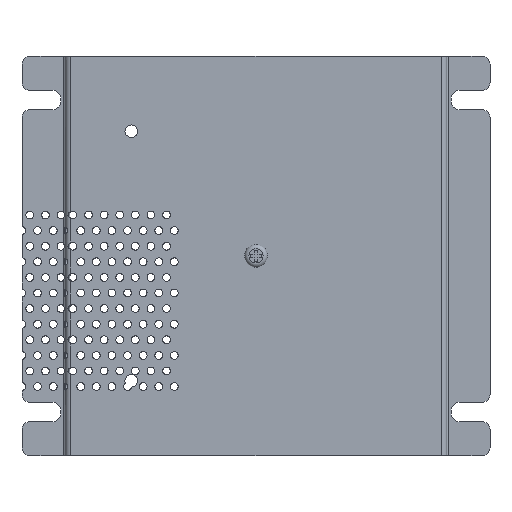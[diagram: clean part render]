
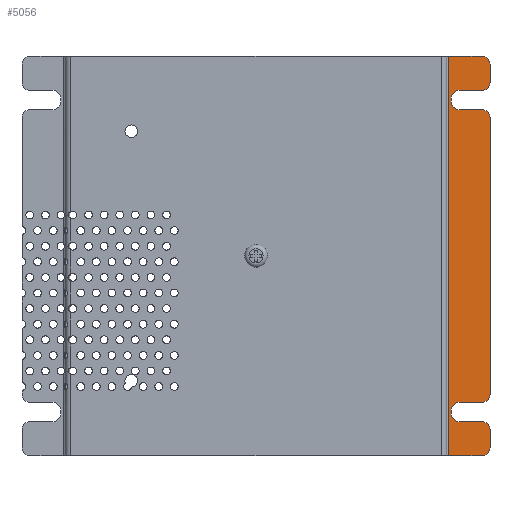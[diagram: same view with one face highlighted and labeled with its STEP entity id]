
A CAD part, top view. The second image highlights one B-rep face of the part: STEP entity #5056.
In plain terms, the highlighted planar face has unit normal (0, 0, 1).
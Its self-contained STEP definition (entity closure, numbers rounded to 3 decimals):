
#152=PLANE('',#5487);
#185=CIRCLE('',#5241,3.175);
#187=CIRCLE('',#5245,3.175);
#189=CIRCLE('',#5249,3.175);
#191=CIRCLE('',#5254,3.175);
#193=CIRCLE('',#5258,3.175);
#195=CIRCLE('',#5262,3.175);
#197=CIRCLE('',#5266,3.175);
#199=CIRCLE('',#5270,3.175);
#325=CIRCLE('',#5475,3.175);
#333=CIRCLE('',#5488,3.175);
#942=ORIENTED_EDGE('',*,*,#1926,.F.);
#943=ORIENTED_EDGE('',*,*,#1927,.T.);
#944=ORIENTED_EDGE('',*,*,#1931,.T.);
#945=ORIENTED_EDGE('',*,*,#1880,.T.);
#946=ORIENTED_EDGE('',*,*,#1886,.T.);
#947=ORIENTED_EDGE('',*,*,#1887,.T.);
#948=ORIENTED_EDGE('',*,*,#1890,.T.);
#949=ORIENTED_EDGE('',*,*,#1893,.T.);
#950=ORIENTED_EDGE('',*,*,#1896,.F.);
#951=ORIENTED_EDGE('',*,*,#2176,.T.);
#952=ORIENTED_EDGE('',*,*,#2205,.F.);
#953=ORIENTED_EDGE('',*,*,#2204,.T.);
#954=ORIENTED_EDGE('',*,*,#2206,.T.);
#955=ORIENTED_EDGE('',*,*,#2207,.T.);
#956=ORIENTED_EDGE('',*,*,#1901,.F.);
#957=ORIENTED_EDGE('',*,*,#1903,.T.);
#958=ORIENTED_EDGE('',*,*,#1908,.T.);
#959=ORIENTED_EDGE('',*,*,#1909,.T.);
#960=ORIENTED_EDGE('',*,*,#1912,.T.);
#961=ORIENTED_EDGE('',*,*,#1915,.T.);
#962=ORIENTED_EDGE('',*,*,#1918,.T.);
#963=ORIENTED_EDGE('',*,*,#1921,.T.);
#1880=EDGE_CURVE('',#2553,#2554,#185,.T.);
#1886=EDGE_CURVE('',#2554,#2558,#3046,.T.);
#1887=EDGE_CURVE('',#2558,#2559,#187,.T.);
#1890=EDGE_CURVE('',#2559,#2561,#3048,.F.);
#1893=EDGE_CURVE('',#2561,#2563,#189,.F.);
#1896=EDGE_CURVE('',#2565,#2563,#3052,.F.);
#1901=EDGE_CURVE('',#2569,#2570,#3057,.F.);
#1903=EDGE_CURVE('',#2569,#2571,#191,.F.);
#1908=EDGE_CURVE('',#2571,#2574,#3062,.T.);
#1909=EDGE_CURVE('',#2574,#2575,#193,.T.);
#1912=EDGE_CURVE('',#2575,#2577,#3064,.T.);
#1915=EDGE_CURVE('',#2577,#2579,#195,.T.);
#1918=EDGE_CURVE('',#2579,#2581,#3068,.F.);
#1921=EDGE_CURVE('',#2581,#2583,#197,.F.);
#1926=EDGE_CURVE('',#2586,#2583,#3074,.F.);
#1927=EDGE_CURVE('',#2586,#2587,#199,.F.);
#1931=EDGE_CURVE('',#2587,#2553,#3077,.T.);
#2176=EDGE_CURVE('',#2565,#2781,#325,.F.);
#2204=EDGE_CURVE('',#2793,#2794,#3194,.T.);
#2205=EDGE_CURVE('',#2793,#2781,#3195,.F.);
#2206=EDGE_CURVE('',#2794,#2795,#3196,.F.);
#2207=EDGE_CURVE('',#2795,#2570,#333,.F.);
#2553=VERTEX_POINT('',#7284);
#2554=VERTEX_POINT('',#7285);
#2558=VERTEX_POINT('',#7295);
#2559=VERTEX_POINT('',#7299);
#2561=VERTEX_POINT('',#7305);
#2563=VERTEX_POINT('',#7311);
#2565=VERTEX_POINT('',#7317);
#2569=VERTEX_POINT('',#7326);
#2570=VERTEX_POINT('',#7328);
#2571=VERTEX_POINT('',#7332);
#2574=VERTEX_POINT('',#7340);
#2575=VERTEX_POINT('',#7344);
#2577=VERTEX_POINT('',#7350);
#2579=VERTEX_POINT('',#7356);
#2581=VERTEX_POINT('',#7362);
#2583=VERTEX_POINT('',#7368);
#2586=VERTEX_POINT('',#7376);
#2587=VERTEX_POINT('',#7380);
#2781=VERTEX_POINT('',#9042);
#2793=VERTEX_POINT('',#9084);
#2794=VERTEX_POINT('',#9086);
#2795=VERTEX_POINT('',#9091);
#3046=LINE('',#7296,#3324);
#3048=LINE('',#7304,#3326);
#3052=LINE('',#7316,#3330);
#3057=LINE('',#7327,#3335);
#3062=LINE('',#7341,#3340);
#3064=LINE('',#7349,#3342);
#3068=LINE('',#7361,#3346);
#3074=LINE('',#7377,#3352);
#3077=LINE('',#7386,#3355);
#3194=LINE('',#9087,#3472);
#3195=LINE('',#9089,#3473);
#3196=LINE('',#9090,#3474);
#3324=VECTOR('',#5844,1000.);
#3326=VECTOR('',#5854,1000.);
#3330=VECTOR('',#5866,1000.);
#3335=VECTOR('',#5873,1000.);
#3340=VECTOR('',#5886,1000.);
#3342=VECTOR('',#5896,1000.);
#3346=VECTOR('',#5908,1000.);
#3352=VECTOR('',#5922,1000.);
#3355=VECTOR('',#5933,1000.);
#3472=VECTOR('',#6478,1000.);
#3473=VECTOR('',#6481,1000.);
#3474=VECTOR('',#6482,1000.);
#3738=EDGE_LOOP('',(#942,#943,#944,#945,#946,#947,#948,#949,#950,#951,#952,
#953,#954,#955,#956,#957,#958,#959,#960,#961,#962,#963));
#4326=FACE_BOUND('',#3738,.T.);
#5056=ADVANCED_FACE('',(#4326),#152,.F.);
#5241=AXIS2_PLACEMENT_3D('',#7283,#5834,#5835);
#5245=AXIS2_PLACEMENT_3D('',#7298,#5847,#5848);
#5249=AXIS2_PLACEMENT_3D('',#7310,#5859,#5860);
#5254=AXIS2_PLACEMENT_3D('',#7331,#5877,#5878);
#5258=AXIS2_PLACEMENT_3D('',#7343,#5889,#5890);
#5262=AXIS2_PLACEMENT_3D('',#7355,#5901,#5902);
#5266=AXIS2_PLACEMENT_3D('',#7367,#5913,#5914);
#5270=AXIS2_PLACEMENT_3D('',#7379,#5925,#5926);
#5475=AXIS2_PLACEMENT_3D('',#9041,#6434,#6435);
#5487=AXIS2_PLACEMENT_3D('',#9088,#6479,#6480);
#5488=AXIS2_PLACEMENT_3D('',#9092,#6483,#6484);
#5834=DIRECTION('',(0.,0.,-1.));
#5835=DIRECTION('',(-1.,0.,0.));
#5844=DIRECTION('',(0.,1.,0.));
#5847=DIRECTION('',(0.,0.,-1.));
#5848=DIRECTION('',(-1.,0.,0.));
#5854=DIRECTION('',(-1.,0.,0.));
#5859=DIRECTION('',(0.,0.,-1.));
#5860=DIRECTION('',(-1.,0.,0.));
#5866=DIRECTION('',(0.,1.,0.));
#5873=DIRECTION('',(0.,1.,0.));
#5877=DIRECTION('',(0.,0.,-1.));
#5878=DIRECTION('',(-1.,0.,0.));
#5886=DIRECTION('',(-1.,0.,0.));
#5889=DIRECTION('',(0.,0.,-1.));
#5890=DIRECTION('',(-1.,0.,0.));
#5896=DIRECTION('',(0.,1.,0.));
#5901=DIRECTION('',(0.,0.,-1.));
#5902=DIRECTION('',(-1.,0.,0.));
#5908=DIRECTION('',(-1.,0.,0.));
#5913=DIRECTION('',(0.,0.,-1.));
#5914=DIRECTION('',(-1.,0.,0.));
#5922=DIRECTION('',(0.,1.,0.));
#5925=DIRECTION('',(0.,0.,-1.));
#5926=DIRECTION('',(-1.,0.,0.));
#5933=DIRECTION('',(-1.,0.,0.));
#6434=DIRECTION('',(0.,0.,-1.));
#6435=DIRECTION('',(-1.,0.,0.));
#6478=DIRECTION('',(0.,-1.,0.));
#6479=DIRECTION('',(0.,0.,-1.));
#6480=DIRECTION('',(-1.,0.,0.));
#6481=DIRECTION('',(-1.,0.,0.));
#6482=DIRECTION('',(-1.,0.,0.));
#6483=DIRECTION('',(0.,0.,-1.));
#6484=DIRECTION('',(-1.,0.,0.));
#7283=CARTESIAN_POINT('',(82.677,62.687,-8.28));
#7284=CARTESIAN_POINT('',(82.677,59.512,-8.28));
#7285=CARTESIAN_POINT('',(79.502,62.687,-8.28));
#7295=CARTESIAN_POINT('',(79.502,64.287,-8.28));
#7296=CARTESIAN_POINT('',(79.502,81.28,-8.28));
#7298=CARTESIAN_POINT('',(82.677,64.287,-8.28));
#7299=CARTESIAN_POINT('',(82.677,67.462,-8.28));
#7304=CARTESIAN_POINT('',(76.2,67.462,-8.28));
#7305=CARTESIAN_POINT('',(92.075,67.462,-8.28));
#7310=CARTESIAN_POINT('',(92.075,70.637,-8.28));
#7311=CARTESIAN_POINT('',(95.25,70.637,-8.28));
#7316=CARTESIAN_POINT('',(95.25,81.28,-8.28));
#7317=CARTESIAN_POINT('',(95.25,78.105,-8.28));
#7326=CARTESIAN_POINT('',(95.25,-70.637,-8.28));
#7327=CARTESIAN_POINT('',(95.25,81.28,-8.28));
#7328=CARTESIAN_POINT('',(95.25,-78.105,-8.28));
#7331=CARTESIAN_POINT('',(92.075,-70.637,-8.28));
#7332=CARTESIAN_POINT('',(92.075,-67.462,-8.28));
#7340=CARTESIAN_POINT('',(82.677,-67.462,-8.28));
#7341=CARTESIAN_POINT('',(76.2,-67.462,-8.28));
#7343=CARTESIAN_POINT('',(82.677,-64.287,-8.28));
#7344=CARTESIAN_POINT('',(79.502,-64.287,-8.28));
#7349=CARTESIAN_POINT('',(79.502,81.28,-8.28));
#7350=CARTESIAN_POINT('',(79.502,-62.687,-8.28));
#7355=CARTESIAN_POINT('',(82.677,-62.687,-8.28));
#7356=CARTESIAN_POINT('',(82.677,-59.512,-8.28));
#7361=CARTESIAN_POINT('',(76.2,-59.512,-8.28));
#7362=CARTESIAN_POINT('',(92.075,-59.512,-8.28));
#7367=CARTESIAN_POINT('',(92.075,-56.337,-8.28));
#7368=CARTESIAN_POINT('',(95.25,-56.337,-8.28));
#7376=CARTESIAN_POINT('',(95.25,56.337,-8.28));
#7377=CARTESIAN_POINT('',(95.25,81.28,-8.28));
#7379=CARTESIAN_POINT('',(92.075,56.337,-8.28));
#7380=CARTESIAN_POINT('',(92.075,59.512,-8.28));
#7386=CARTESIAN_POINT('',(76.2,59.512,-8.28));
#9041=CARTESIAN_POINT('',(92.075,78.105,-8.28));
#9042=CARTESIAN_POINT('',(92.075,81.28,-8.28));
#9084=CARTESIAN_POINT('',(78.384,81.28,-8.28));
#9086=CARTESIAN_POINT('',(78.384,-81.28,-8.28));
#9087=CARTESIAN_POINT('',(78.384,81.28,-8.28));
#9088=CARTESIAN_POINT('',(76.2,81.28,-8.28));
#9089=CARTESIAN_POINT('',(76.2,81.28,-8.28));
#9090=CARTESIAN_POINT('',(76.2,-81.28,-8.28));
#9091=CARTESIAN_POINT('',(92.075,-81.28,-8.28));
#9092=CARTESIAN_POINT('',(92.075,-78.105,-8.28));
